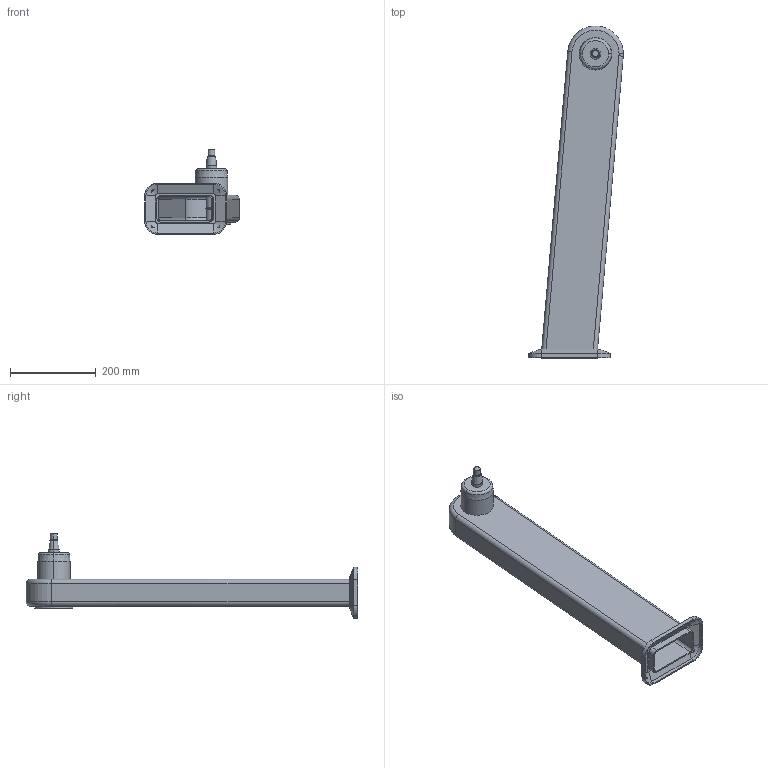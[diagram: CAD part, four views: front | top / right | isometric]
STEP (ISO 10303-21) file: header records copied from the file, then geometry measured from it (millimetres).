
FILE_DESCRIPTION (( 'STEP AP214' ), '1' );
FILE_NAME ('WP710_H710_+05.STEP', '2014-06-27T07:53:06', ( '' ), ( '' ), 'SwSTEP 2.0', 'SolidWorks 2014', '' );
FILE_SCHEMA (( 'AUTOMOTIVE_DESIGN' ));
Length unit declared in the file: millimetre
Products named in the file (1): WP710_H710_+05
Bounding box: 220.87 x 774.94 x 198 mm (x, y, z)
Volume: 1250252.8 mm3; surface area: 618663.8 mm2
Topology: 1 solids, 1 shells, 114 faces, 256 edges, 156 vertices
Faces by surface type: cylinder 42, plane 40, cone 20, torus 12
Entity records: 3285 total; most frequent: CARTESIAN_POINT 680, DIRECTION 570, ORIENTED_EDGE 512, EDGE_CURVE 256, AXIS2_PLACEMENT_3D 221, VERTEX_POINT 156, EDGE_LOOP 128, VECTOR 128
